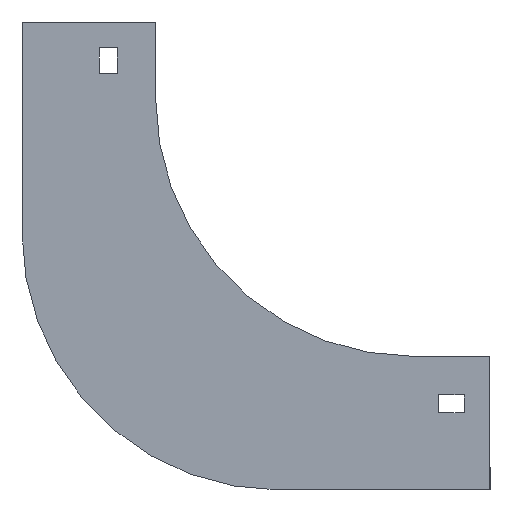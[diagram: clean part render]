
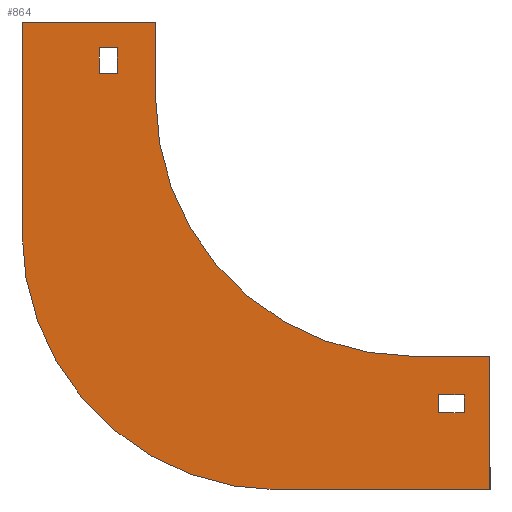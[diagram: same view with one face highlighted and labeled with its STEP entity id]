
A CAD part, left-side view. The second image highlights one B-rep face of the part: STEP entity #864.
In plain terms, the highlighted planar face has unit normal (-1, 0, 0).
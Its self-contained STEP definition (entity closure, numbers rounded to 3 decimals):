
#10 = VERTEX_POINT ( 'NONE', #1018 ) ;
#25 = DIRECTION ( 'NONE',  ( 0., 0., 1. ) ) ;
#30 = VECTOR ( 'NONE', #335, 1000. ) ;
#32 = CARTESIAN_POINT ( 'NONE',  ( -152., 15., -10. ) ) ;
#39 = CARTESIAN_POINT ( 'NONE',  ( -152., 0., 0. ) ) ;
#43 = ORIENTED_EDGE ( 'NONE', *, *, #224, .F. ) ;
#51 = LINE ( 'NONE', #651, #184 ) ;
#73 = CARTESIAN_POINT ( 'NONE',  ( -152., 52., -82. ) ) ;
#74 = FACE_BOUND ( 'NONE', #977, .T. ) ;
#83 = VERTEX_POINT ( 'NONE', #113 ) ;
#94 = CARTESIAN_POINT ( 'NONE',  ( -152., 0., 0. ) ) ;
#113 = CARTESIAN_POINT ( 'NONE',  ( -152., -120., -152. ) ) ;
#129 = CARTESIAN_POINT ( 'NONE',  ( -152., 22., -10. ) ) ;
#135 = CARTESIAN_POINT ( 'NONE',  ( -152., -130., -182. ) ) ;
#136 = CARTESIAN_POINT ( 'NONE',  ( -152., -48., -82. ) ) ;
#156 = DIRECTION ( 'NONE',  ( 0., -1., 0. ) ) ;
#181 = LINE ( 'NONE', #1007, #1254 ) ;
#184 = VECTOR ( 'NONE', #571, 1000. ) ;
#192 = AXIS2_PLACEMENT_3D ( 'NONE', #297, #704, #1151 ) ;
#203 = VECTOR ( 'NONE', #555, 1000. ) ;
#204 = VERTEX_POINT ( 'NONE', #457 ) ;
#214 = CIRCLE ( 'NONE', #623, 100. ) ;
#215 = ORIENTED_EDGE ( 'NONE', *, *, #506, .T. ) ;
#224 = EDGE_CURVE ( 'NONE', #1386, #949, #903, .T. ) ;
#226 = CARTESIAN_POINT ( 'NONE',  ( -152., -110., -152. ) ) ;
#230 = LINE ( 'NONE', #536, #1188 ) ;
#245 = LINE ( 'NONE', #567, #1214 ) ;
#248 = EDGE_CURVE ( 'NONE', #968, #1047, #1356, .T. ) ;
#271 = ORIENTED_EDGE ( 'NONE', *, *, #248, .F. ) ;
#274 = VERTEX_POINT ( 'NONE', #1200 ) ;
#292 = CARTESIAN_POINT ( 'NONE',  ( -152., -110., -145. ) ) ;
#297 = CARTESIAN_POINT ( 'NONE',  ( -152., -100., -30. ) ) ;
#311 = ORIENTED_EDGE ( 'NONE', *, *, #1051, .T. ) ;
#312 = EDGE_CURVE ( 'NONE', #1190, #204, #319, .T. ) ;
#319 = LINE ( 'NONE', #226, #393 ) ;
#335 = DIRECTION ( 'NONE',  ( 0., 1., 0. ) ) ;
#364 = EDGE_LOOP ( 'NONE', ( #446, #1383, #1162, #906 ) ) ;
#389 = CARTESIAN_POINT ( 'NONE',  ( -152., -130., -182. ) ) ;
#393 = VECTOR ( 'NONE', #844, 1000. ) ;
#397 = LINE ( 'NONE', #73, #1402 ) ;
#404 = ORIENTED_EDGE ( 'NONE', *, *, #1281, .F. ) ;
#425 = EDGE_CURVE ( 'NONE', #10, #556, #431, .T. ) ;
#426 = CARTESIAN_POINT ( 'NONE',  ( -152., 0., -30. ) ) ;
#431 = LINE ( 'NONE', #1280, #30 ) ;
#446 = ORIENTED_EDGE ( 'NONE', *, *, #742, .F. ) ;
#457 = CARTESIAN_POINT ( 'NONE',  ( -152., -110., -152. ) ) ;
#478 = EDGE_CURVE ( 'NONE', #949, #274, #214, .T. ) ;
#495 = FACE_OUTER_BOUND ( 'NONE', #1246, .T. ) ;
#506 = EDGE_CURVE ( 'NONE', #806, #986, #230, .T. ) ;
#521 = CARTESIAN_POINT ( 'NONE',  ( -152., -100., -30. ) ) ;
#536 = CARTESIAN_POINT ( 'NONE',  ( -152., 22., -10. ) ) ;
#544 = ORIENTED_EDGE ( 'NONE', *, *, #478, .F. ) ;
#555 = DIRECTION ( 'NONE',  ( 0., 0., -1. ) ) ;
#556 = VERTEX_POINT ( 'NONE', #874 ) ;
#567 = CARTESIAN_POINT ( 'NONE',  ( -152., 52., 0. ) ) ;
#570 = VERTEX_POINT ( 'NONE', #867 ) ;
#571 = DIRECTION ( 'NONE',  ( 0., 0., -1. ) ) ;
#581 = VERTEX_POINT ( 'NONE', #1092 ) ;
#583 = CIRCLE ( 'NONE', #1278, 100. ) ;
#611 = VECTOR ( 'NONE', #658, 1000. ) ;
#623 = AXIS2_PLACEMENT_3D ( 'NONE', #521, #719, #841 ) ;
#640 = EDGE_CURVE ( 'NONE', #274, #570, #673, .T. ) ;
#641 = DIRECTION ( 'NONE',  ( 0., -1., 0. ) ) ;
#642 = ORIENTED_EDGE ( 'NONE', *, *, #1122, .F. ) ;
#644 = VECTOR ( 'NONE', #1276, 1000. ) ;
#650 = ORIENTED_EDGE ( 'NONE', *, *, #640, .F. ) ;
#651 = CARTESIAN_POINT ( 'NONE',  ( -152., -130., -130. ) ) ;
#658 = DIRECTION ( 'NONE',  ( 0., 1., 0. ) ) ;
#673 = LINE ( 'NONE', #876, #687 ) ;
#687 = VECTOR ( 'NONE', #156, 1000. ) ;
#704 = DIRECTION ( 'NONE',  ( -1., 0., 0. ) ) ;
#707 = EDGE_CURVE ( 'NONE', #570, #968, #51, .T. ) ;
#719 = DIRECTION ( 'NONE',  ( -1., 0., 0. ) ) ;
#742 = EDGE_CURVE ( 'NONE', #581, #1190, #1338, .T. ) ;
#771 = DIRECTION ( 'NONE',  ( 0., -1., 0. ) ) ;
#779 = CARTESIAN_POINT ( 'NONE',  ( -152., 15., -10. ) ) ;
#802 = DIRECTION ( 'NONE',  ( 0., 1., 0. ) ) ;
#806 = VERTEX_POINT ( 'NONE', #1255 ) ;
#841 = DIRECTION ( 'NONE',  ( 0., 0., 1. ) ) ;
#844 = DIRECTION ( 'NONE',  ( 0., 0., -1. ) ) ;
#845 = VECTOR ( 'NONE', #885, 1000. ) ;
#864 = ADVANCED_FACE ( 'NONE', ( #74, #495, #1370 ), #927, .T. ) ;
#867 = CARTESIAN_POINT ( 'NONE',  ( -152., -130., -130. ) ) ;
#872 = ORIENTED_EDGE ( 'NONE', *, *, #1082, .F. ) ;
#874 = CARTESIAN_POINT ( 'NONE',  ( -152., 22., -20. ) ) ;
#876 = CARTESIAN_POINT ( 'NONE',  ( -152., -100., -130. ) ) ;
#885 = DIRECTION ( 'NONE',  ( 0., 0., -1. ) ) ;
#903 = LINE ( 'NONE', #39, #845 ) ;
#906 = ORIENTED_EDGE ( 'NONE', *, *, #312, .F. ) ;
#920 = DIRECTION ( 'NONE',  ( 0., 0., 1. ) ) ;
#927 = PLANE ( 'NONE',  #192 ) ;
#935 = EDGE_CURVE ( 'NONE', #204, #83, #1053, .T. ) ;
#949 = VERTEX_POINT ( 'NONE', #426 ) ;
#967 = VECTOR ( 'NONE', #802, 1000. ) ;
#968 = VERTEX_POINT ( 'NONE', #135 ) ;
#976 = CARTESIAN_POINT ( 'NONE',  ( -152., 52., 0. ) ) ;
#977 = EDGE_LOOP ( 'NONE', ( #215, #311, #1088, #1314 ) ) ;
#986 = VERTEX_POINT ( 'NONE', #32 ) ;
#993 = LINE ( 'NONE', #129, #1357 ) ;
#1007 = CARTESIAN_POINT ( 'NONE',  ( -152., -120., -152. ) ) ;
#1018 = CARTESIAN_POINT ( 'NONE',  ( -152., 15., -20. ) ) ;
#1042 = EDGE_CURVE ( 'NONE', #83, #581, #181, .T. ) ;
#1047 = VERTEX_POINT ( 'NONE', #1091 ) ;
#1051 = EDGE_CURVE ( 'NONE', #986, #10, #1373, .T. ) ;
#1052 = VERTEX_POINT ( 'NONE', #976 ) ;
#1053 = LINE ( 'NONE', #1407, #644 ) ;
#1082 = EDGE_CURVE ( 'NONE', #1047, #1138, #583, .T. ) ;
#1088 = ORIENTED_EDGE ( 'NONE', *, *, #425, .T. ) ;
#1091 = CARTESIAN_POINT ( 'NONE',  ( -152., -48., -182. ) ) ;
#1092 = CARTESIAN_POINT ( 'NONE',  ( -152., -120., -145. ) ) ;
#1095 = CARTESIAN_POINT ( 'NONE',  ( -152., -120., -145. ) ) ;
#1122 = EDGE_CURVE ( 'NONE', #1052, #1386, #245, .T. ) ;
#1129 = EDGE_CURVE ( 'NONE', #556, #806, #993, .T. ) ;
#1138 = VERTEX_POINT ( 'NONE', #1237 ) ;
#1151 = DIRECTION ( 'NONE',  ( 0., 0., 1. ) ) ;
#1152 = DIRECTION ( 'NONE',  ( 0., 0., 1. ) ) ;
#1162 = ORIENTED_EDGE ( 'NONE', *, *, #935, .F. ) ;
#1188 = VECTOR ( 'NONE', #641, 1000. ) ;
#1190 = VERTEX_POINT ( 'NONE', #292 ) ;
#1200 = CARTESIAN_POINT ( 'NONE',  ( -152., -100., -130. ) ) ;
#1214 = VECTOR ( 'NONE', #771, 1000. ) ;
#1217 = DIRECTION ( 'NONE',  ( 0., 0., -1. ) ) ;
#1237 = CARTESIAN_POINT ( 'NONE',  ( -152., 52., -82. ) ) ;
#1246 = EDGE_LOOP ( 'NONE', ( #642, #404, #872, #271, #1394, #650, #544, #43 ) ) ;
#1254 = VECTOR ( 'NONE', #1152, 1000. ) ;
#1255 = CARTESIAN_POINT ( 'NONE',  ( -152., 22., -10. ) ) ;
#1276 = DIRECTION ( 'NONE',  ( 0., -1., 0. ) ) ;
#1278 = AXIS2_PLACEMENT_3D ( 'NONE', #136, #1313, #1217 ) ;
#1280 = CARTESIAN_POINT ( 'NONE',  ( -152., 22., -20. ) ) ;
#1281 = EDGE_CURVE ( 'NONE', #1138, #1052, #397, .T. ) ;
#1313 = DIRECTION ( 'NONE',  ( 1., 0., 0. ) ) ;
#1314 = ORIENTED_EDGE ( 'NONE', *, *, #1129, .T. ) ;
#1338 = LINE ( 'NONE', #1095, #611 ) ;
#1356 = LINE ( 'NONE', #389, #967 ) ;
#1357 = VECTOR ( 'NONE', #25, 1000. ) ;
#1370 = FACE_BOUND ( 'NONE', #364, .T. ) ;
#1373 = LINE ( 'NONE', #779, #203 ) ;
#1383 = ORIENTED_EDGE ( 'NONE', *, *, #1042, .F. ) ;
#1386 = VERTEX_POINT ( 'NONE', #94 ) ;
#1394 = ORIENTED_EDGE ( 'NONE', *, *, #707, .F. ) ;
#1402 = VECTOR ( 'NONE', #920, 1000. ) ;
#1407 = CARTESIAN_POINT ( 'NONE',  ( -152., -120., -152. ) ) ;
